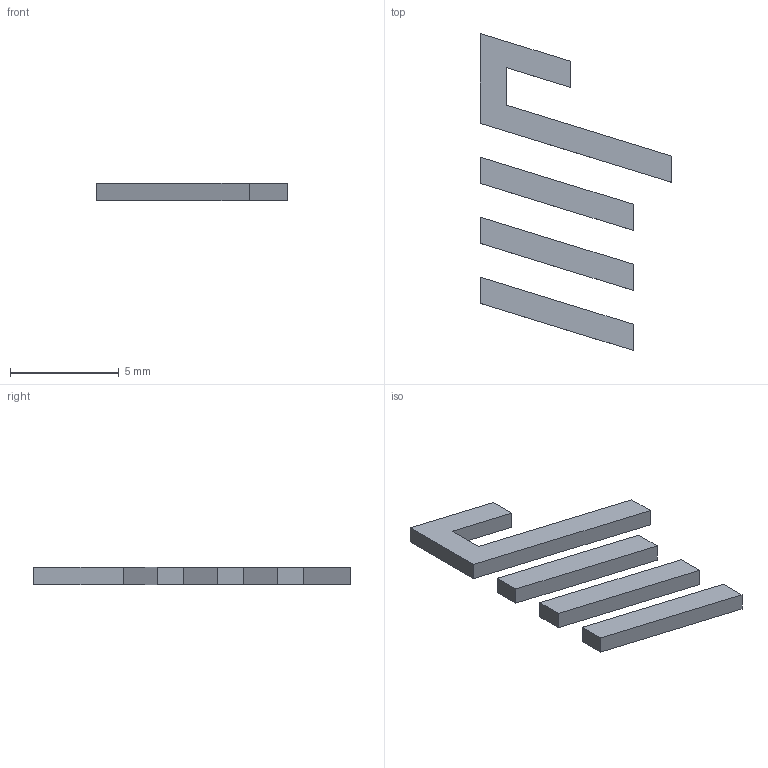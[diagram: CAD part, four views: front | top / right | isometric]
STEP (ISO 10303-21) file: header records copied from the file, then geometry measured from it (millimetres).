
FILE_DESCRIPTION (( 'STEP AP214' ), '1' );
FILE_NAME ('Case_Inlay_Logo.STEP', '2025-02-14T20:42:12', ( '' ), ( '' ), 'SwSTEP 2.0', 'SolidWorks 2019', '' );
FILE_SCHEMA (( 'AUTOMOTIVE_DESIGN' ));
Length unit declared in the file: millimetre
Products named in the file (1): Case_Inlay_Logo
Bounding box: 8.8 x 14.59 x 0.8 mm (x, y, z)
Volume: 34.5 mm3; surface area: 153.5 mm2
Topology: 4 solids, 4 shells, 28 faces, 60 edges, 40 vertices
Faces by surface type: plane 28
Entity records: 805 total; most frequent: CARTESIAN_POINT 129, ORIENTED_EDGE 120, DIRECTION 118, EDGE_CURVE 60, VECTOR 60, LINE 60, VERTEX_POINT 40, AXIS2_PLACEMENT_3D 29
